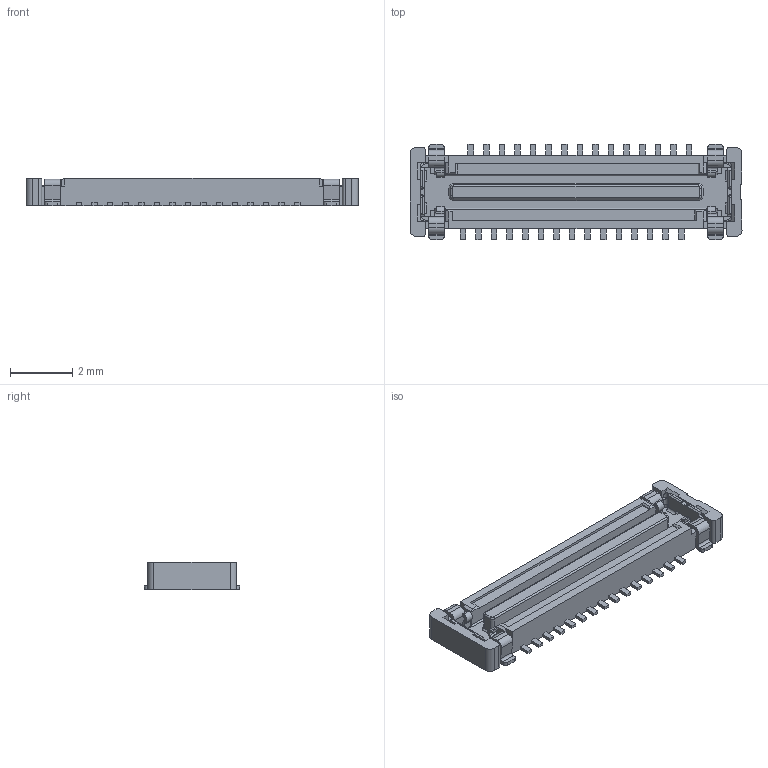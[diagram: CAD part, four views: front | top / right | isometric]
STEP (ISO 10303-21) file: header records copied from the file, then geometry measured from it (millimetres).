
FILE_DESCRIPTION(('Creo Elements/Direct Modeling STEP Export'),'2;1');
FILE_NAME('XSLS00-30_ST.stp','2017-08-07T11:07:43',(''),(''),'Creo Elements/Direct Modeling STEP processor for AP214 (Solid Model)','Creo Elements/Direct Modeling 19.0F 14-Feb-2017 (C) Parametric Technology GmbH','');
FILE_SCHEMA(('AUTOMOTIVE_DESIGN { 1 0 10303 214 1 1 1 1 }'));
Length unit declared in the file: millimetre
Products named in the file (2): XSLS00-30
Assembly tree (1 placements, depth 2):
  XSLS00-30
    XSLS00-30
Bounding box: 10.65 x 3.05 x 0.88 mm (x, y, z)
Volume: 17.1 mm3; surface area: 120 mm2
Topology: 1 solids, 3 shells, 533 faces, 1560 edges, 1014 vertices
Faces by surface type: plane 381, cylinder 144, cone 4, torus 4
Entity records: 18270 total; most frequent: CARTESIAN_POINT 4052, ORIENTED_EDGE 3128, DIRECTION 2792, EDGE_CURVE 1560, VECTOR 1212, LINE 1212, VERTEX_POINT 1014, AXIS2_PLACEMENT_3D 790
